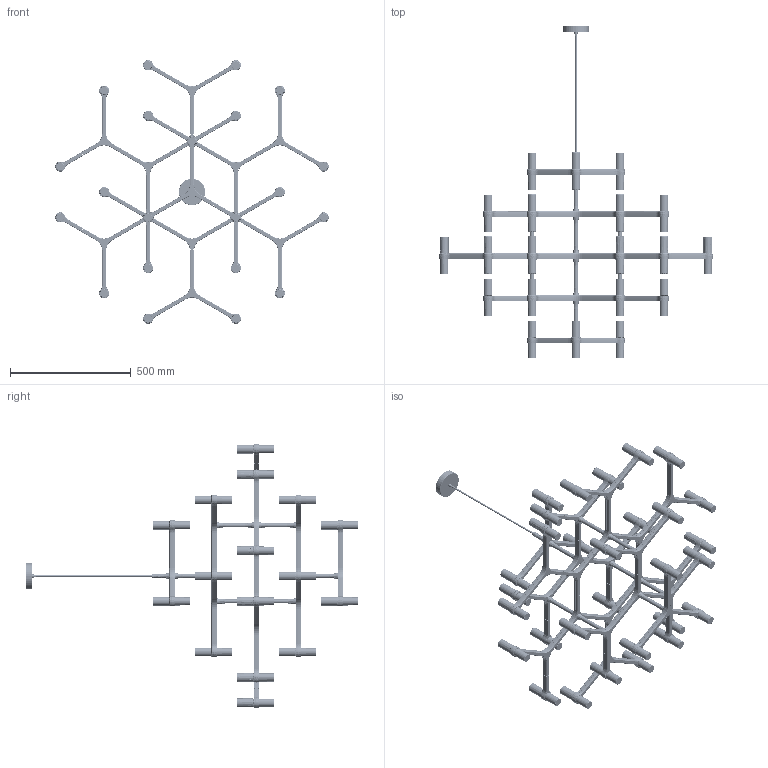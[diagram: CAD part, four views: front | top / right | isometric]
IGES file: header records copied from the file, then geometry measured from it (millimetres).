
Start section: SolidWorks IGES file using analytic representation for surfaces
Global section: file name: C:\Users\tungari.NEMOLIGHTING\Desktop\3D\CROWN_PIANI\MAJOR\DEF\3D_CROWN_MAJOR.IGS; native system: SolidWorks 2016; preprocessor: SolidWorks 2016; author: tungari; date: 180326.161711; units: millimetre
Bounding box: 1134.74 x 1376.2 x 1093.46 mm (x, y, z)
Surface area: 2158145 mm2 (no closed solid volume)
Topology: 0 solids, 0 shells, 7834 faces, 114125 edges, 114125 vertices
Faces by surface type: bspline 4386, revolution 3448
